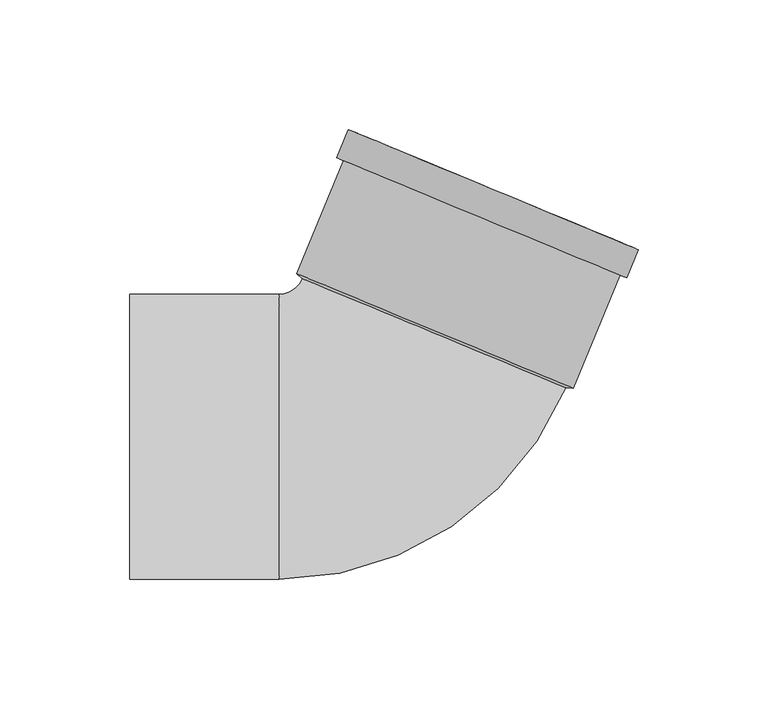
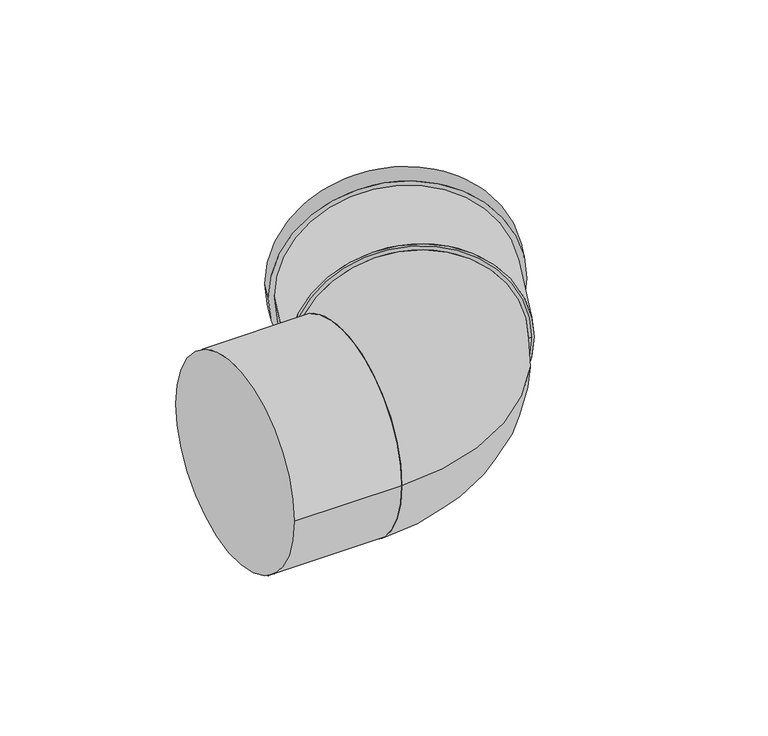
"""IFC4 building model written with IfcOpenShell, lengths in millimetres: pipe fitting geometry, Superdrain SKB Bend : Superdrain SKB Bend."""

import ifcopenshell
import ifcopenshell.guid

model = None  # the IFC model being written
_history = None  # IfcOwnerHistory: only IFC2X3 demands one
_inside = {}  # id of a spatial element -> (the spatial element, [elements in it])
_under = {}  # id of a project, library or spatial element -> (it, [spatial elements below it])
_declared = {}  # id of a project -> (the project, [libraries it declares])
_typed = {}  # id of a type object -> (the type object, [elements of that type])
_made_of = {}  # id of a material, layer set ... -> (it, [elements and type objects made of it])


def new_model(schema):
    """Start an empty IFC model of exactly this schema.

    Asked for "IFC4X3", IfcOpenShell would pick the latest addendum, in which some entities
    have other attributes; the version numbers below select the first issue.
    IFC2X3 requires an IfcOwnerHistory on every rooted entity: one is made here for all.
    """
    global model, _history
    if schema == "IFC4X3":
        model = ifcopenshell.file(schema_version=(4, 3, 0, 0))
    else:
        model = ifcopenshell.file(schema=schema)
    _inside.clear()
    _under.clear()
    _declared.clear()
    _typed.clear()
    _made_of.clear()
    _history = None
    if model.schema == "IFC2X3":
        org = make("IfcOrganization", Name="unknown")
        user = make(
            "IfcPersonAndOrganization",
            ThePerson=make("IfcPerson", FamilyName="unknown"),
            TheOrganization=org,
        )
        app = make(
            "IfcApplication",
            ApplicationDeveloper=org,
            Version="unknown",
            ApplicationFullName="unknown",
            ApplicationIdentifier="unknown",
        )
        _history = make(
            "IfcOwnerHistory",
            OwningUser=user,
            OwningApplication=app,
            ChangeAction="ADDED",
            CreationDate=0,
        )
    return model


def make(cls, **values):
    """One entity of the class cls with the attributes given. An attribute that is None is left unset."""
    return model.create_entity(
        cls, **{name: value for name, value in values.items() if value is not None}
    )


def rooted(cls, **values):
    """An entity with a GlobalId (a new one), such as an element, a storey or a relation."""
    return make(cls, GlobalId=ifcopenshell.guid.new(), OwnerHistory=_history, **values)


def si_unit(unit_type, name, prefix=None):
    """IfcSIUnit, for example si_unit("LENGTHUNIT", "METRE", prefix="MILLI")."""
    return make("IfcSIUnit", UnitType=unit_type, Prefix=prefix, Name=name)


def assignment(units):
    """IfcUnitAssignment: the units of a project."""
    return None if units is None else make("IfcUnitAssignment", Units=units)


def point(xyz):
    """IfcCartesianPoint."""
    return None if xyz is None else make("IfcCartesianPoint", Coordinates=xyz)


def direction(xyz):
    """IfcDirection."""
    return None if xyz is None else make("IfcDirection", DirectionRatios=xyz)


def frame(location, z_axis=None, x_axis=None):
    """IfcAxis2Placement3D, a coordinate frame: its origin and axes. An axis left out is left unset."""
    return make(
        "IfcAxis2Placement3D",
        Location=point(location),
        Axis=direction(z_axis),
        RefDirection=direction(x_axis),
    )


def frame_2d(location, x_axis=None):
    """IfcAxis2Placement2D, a coordinate frame in the plane: its origin and x axis."""
    return make(
        "IfcAxis2Placement2D", Location=point(location), RefDirection=direction(x_axis)
    )


def origin():
    """The frame at (0, 0, 0) with its axes left unset."""
    return frame((0.0, 0.0, 0.0))


def origin_2d():
    """The frame at (0, 0) in the plane with its x axis left unset."""
    return frame_2d((0.0, 0.0))


def place(relative_to, where):
    """IfcLocalPlacement: puts the frame where relative to a parent placement (None: the world)."""
    return make(
        "IfcLocalPlacement", PlacementRelTo=relative_to, RelativePlacement=where
    )


def context(
    kind, dimensions, precision=None, world=None, true_north=None, identifier=None
):
    """IfcGeometricRepresentationContext, for example the 3D "Model" context."""
    return make(
        "IfcGeometricRepresentationContext",
        ContextIdentifier=identifier,
        ContextType=kind,
        CoordinateSpaceDimension=dimensions,
        Precision=precision,
        WorldCoordinateSystem=world,
        TrueNorth=true_north,
    )


def project(units=None, contexts=None):
    """IfcProject with its units and contexts."""
    return rooted(
        "IfcProject",
        Name="project",
        RepresentationContexts=contexts,
        UnitsInContext=assignment(units),
    )


def spatial(cls, under=None, at=None, **own):
    """A site, building, storey or space (cls), placed at a placement, below another one or the project."""
    s = rooted(cls, ObjectPlacement=at, **own)
    if under is not None:
        _under.setdefault(under.id(), (under, []))[1].append(s)
    return s


def polyline(points):
    """IfcPolyline through the points."""
    return make("IfcPolyline", Points=[point(p) for p in points])


def circle_curve(where, radius):
    """IfcCircle in the frame where."""
    return make("IfcCircle", Position=where, Radius=radius)


def ellipse_curve(where, semi_axis1, semi_axis2):
    """IfcEllipse in the frame where."""
    return make(
        "IfcEllipse", Position=where, SemiAxis1=semi_axis1, SemiAxis2=semi_axis2
    )


def trimmed(basis, trim1, trim2, sense, master):
    """IfcTrimmedCurve: the piece of a basis curve between two trims."""
    return make(
        "IfcTrimmedCurve",
        BasisCurve=basis,
        Trim1=trim1,
        Trim2=trim2,
        SenseAgreement=sense,
        MasterRepresentation=master,
    )


def segment(curve, same_sense, transition):
    """IfcCompositeCurveSegment."""
    return make(
        "IfcCompositeCurveSegment",
        Transition=transition,
        SameSense=same_sense,
        ParentCurve=curve,
    )


def composite_curve(segments, self_intersect=None):
    """IfcCompositeCurve: segments joined end to end."""
    return make("IfcCompositeCurve", Segments=segments, SelfIntersect=self_intersect)


def outline(outer, holes=None, kind="AREA"):
    """IfcArbitraryClosedProfileDef: a profile drawn as a closed curve; with holes, ...WithVoids."""
    if holes is None:
        return make("IfcArbitraryClosedProfileDef", ProfileType=kind, OuterCurve=outer)
    return make(
        "IfcArbitraryProfileDefWithVoids",
        ProfileType=kind,
        OuterCurve=outer,
        InnerCurves=holes,
    )


def extrude(swept, where, along, depth):
    """IfcExtrudedAreaSolid: the profile swept, set in the frame where, extruded along a direction by depth."""
    return make(
        "IfcExtrudedAreaSolid",
        SweptArea=swept,
        Position=where,
        ExtrudedDirection=direction(along),
        Depth=depth,
    )


def shape(context_of_items, identifier, shape_type, items):
    """IfcShapeRepresentation: the items that make up one representation, for example the "Body"."""
    return make(
        "IfcShapeRepresentation",
        ContextOfItems=context_of_items,
        RepresentationIdentifier=identifier,
        RepresentationType=shape_type,
        Items=items,
    )


def source(mapping_origin, context_of_items, identifier, shape_type, items):
    """IfcRepresentationMap: a shape defined once, which mapped items show again and again."""
    return make(
        "IfcRepresentationMap",
        MappingOrigin=mapping_origin,
        MappedRepresentation=shape(context_of_items, identifier, shape_type, items),
    )


def transform(
    local_origin,
    x_axis=None,
    y_axis=None,
    z_axis=None,
    scale=None,
    scale2=None,
    scale3=None,
    uniform=True,
):
    """IfcCartesianTransformationOperator3D, or its non-uniform kind. x_axis, y_axis, z_axis: its Axis1, 2, 3."""
    if uniform:
        return make(
            "IfcCartesianTransformationOperator3D",
            Axis1=direction(x_axis),
            Axis2=direction(y_axis),
            LocalOrigin=point(local_origin),
            Scale=scale,
            Axis3=direction(z_axis),
        )
    return make(
        "IfcCartesianTransformationOperator3DnonUniform",
        Axis1=direction(x_axis),
        Axis2=direction(y_axis),
        LocalOrigin=point(local_origin),
        Scale=scale,
        Axis3=direction(z_axis),
        Scale2=scale2,
        Scale3=scale3,
    )


def mapped(mapping_source, mapping_target):
    """IfcMappedItem: shows the shape of a source again, moved by a transform."""
    return make(
        "IfcMappedItem", MappingSource=mapping_source, MappingTarget=mapping_target
    )


def made_of(thing, what):
    """Note that an element or type object is made of a material, layer set ...; save() writes the relation."""
    if what is not None:
        _made_of.setdefault(what.id(), (what, []))[1].append(thing)
    return thing


def element(
    cls,
    number,
    at=None,
    inside=None,
    cuts=None,
    type_object=None,
    material=None,
    context=None,
    identifier="Body",
    shape_type=None,
    held_by="IfcProductDefinitionShape",
    body=None,
    shapes=None,
    **own,
):
    """One element of the class cls, such as IfcWall. Its Tag is "e" and its number.

    at: its placement. inside: the storey or other place that contains it. cuts: it is an
    opening in that element (IfcRelVoidsElement). A single representation is given by context,
    identifier, shape_type and body (its items); several are given by shapes. held_by: the class
    of the entity that holds the representations. save() writes the other relations.
    """
    e = rooted(cls, Tag="e%d" % number, ObjectPlacement=at, **own)
    if body is not None:
        shapes = [shape(context, identifier, shape_type, body)]
    if shapes is not None:
        e.Representation = make(held_by, Representations=shapes)
    if inside is not None:
        _inside.setdefault(inside.id(), (inside, []))[1].append(e)
    if cuts is not None:
        rooted(
            "IfcRelVoidsElement", RelatingBuildingElement=cuts, RelatedOpeningElement=e
        )
    if type_object is not None:
        _typed.setdefault(type_object.id(), (type_object, []))[1].append(e)
    return made_of(e, material)


def aggregate(whole, parts):
    """IfcRelAggregates: a whole, such as a stair, and the parts it consists of."""
    return rooted("IfcRelAggregates", RelatingObject=whole, RelatedObjects=parts)


def save(model, path):
    """Write the relations noted so far, then the file.

    IfcRelAggregates (storeys below a building ...), IfcRelContainedInSpatialStructure (elements
    in a storey), IfcRelDefinesByType, IfcRelAssociatesMaterial and IfcRelDeclares: one each for
    every whole, place, type object, material and project.
    """
    for whole, parts in _under.values():
        aggregate(whole, parts)
    for where, things in _inside.values():
        rooted(
            "IfcRelContainedInSpatialStructure",
            RelatedElements=things,
            RelatingStructure=where,
        )
    for kind, things in _typed.values():
        rooted("IfcRelDefinesByType", RelatedObjects=things, RelatingType=kind)
    for what, things in _made_of.values():
        rooted("IfcRelAssociatesMaterial", RelatedObjects=things, RelatingMaterial=what)
    for by, libraries in _declared.values():
        rooted("IfcRelDeclares", RelatingContext=by, RelatedDefinitions=libraries)
    model.write(path)


def plane_surface(at):
    """IfcPlane: the flat surface through the origin of the frame at, square to its z axis."""
    return make("IfcPlane", Position=at)


def revolved_surface(curve, axis_point, axis_direction):
    """IfcSurfaceOfRevolution: the curve turned about the line through axis_point along axis_direction."""
    return make(
        "IfcSurfaceOfRevolution",
        SweptCurve=make("IfcArbitraryOpenProfileDef", ProfileType="CURVE", Curve=curve),
        AxisPosition=make("IfcAxis1Placement", Location=point(axis_point), Axis=direction(axis_direction)),
    )


def advanced_brep(points, edges, surfaces, faces):
    """IfcAdvancedBrep: a solid bounded by faces that lie on surfaces and meet in shared edges.

    An edge is (start, end): straight between two places in points (the first is 0);
    or (start, end, curve); or (start, end, curve, False) where it runs against its curve.
    A face is (place in surfaces, loops), or (place, loops, False) where it looks against
    its surface's normal. A loop lists edges by number (the first is 1), with a minus sign
    where the edge is run from its end to its start. The first loop is the outer one.
    """
    corners = [point(p) for p in points]
    vertices = [make("IfcVertexPoint", VertexGeometry=c) for c in corners]
    made = []
    for start, end, *more in edges:
        made.append(
            make(
                "IfcEdgeCurve",
                EdgeStart=vertices[start],
                EdgeEnd=vertices[end],
                EdgeGeometry=more[0] if more else make("IfcPolyline", Points=[corners[start], corners[end]]),
                SameSense=more[1] if len(more) > 1 else True,
            )
        )
    hull = []
    for where, loops, *sense in faces:
        bounds = []
        for j, loop in enumerate(loops):
            ring = [make("IfcOrientedEdge", EdgeElement=made[abs(k) - 1], Orientation=k > 0) for k in loop]
            bounds.append(
                make(
                    "IfcFaceOuterBound" if j == 0 else "IfcFaceBound",
                    Bound=make("IfcEdgeLoop", EdgeList=ring),
                    Orientation=True,
                )
            )
        hull.append(make("IfcAdvancedFace", Bounds=bounds, FaceSurface=surfaces[where], SameSense=sense[0] if sense else True))
    return make("IfcAdvancedBrep", Outer=make("IfcClosedShell", CfsFaces=hull))


def pipe_fitting_cee9e1e2(model_context):
    return source(origin(), model_context, "Body", "SolidModel", [
        advanced_brep(
        [(67.3452986, 18.864007, 0.0), (-34.28145, 60.9591846, 0.0), (-43.2, -55.0, 0.0), (-43.2, 55.0, 0.0)],
        [
            (0, 1, circle_curve(frame((16.5319243, 39.9115958, 0.0), z_axis=(0.38268343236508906, 0.9238795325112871, 0.0), x_axis=(-0.9238795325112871, 0.38268343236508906, 0.0)), 55.0)),
            (1, 0, circle_curve(frame((16.5319243, 39.9115958, 0.0), z_axis=(0.3826834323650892, 0.923879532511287, 0.0), x_axis=(-0.923879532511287, 0.3826834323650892, 0.0)), 55.0)),
            (2, 3, circle_curve(frame((-43.2, 0.0, 0.0), z_axis=(-1.0, 0.0, 0.0), x_axis=(0.0, 1.0, 0.0)), 55.0)),
            (3, 2, circle_curve(frame((-43.2, 0.0, 0.0), z_axis=(-1.0, 0.0, 0.0), x_axis=(0.0, 1.0, 0.0)), 55.0)),
            (3, 1, circle_curve(frame((-43.2, 64.6533689, 0.0), z_axis=(0.0, 0.0, 1.0), x_axis=(1.0, 0.0, 0.0)), 9.6533689)),
            (0, 2, circle_curve(frame((-43.2, 64.6533689, 0.0), z_axis=(0.0, 0.0, -1.0), x_axis=(1.0, 0.0, 0.0)), 119.6533689)),
        ],
        [
            plane_surface(frame((16.5319243, 39.9115958, 0.0), z_axis=(0.3826834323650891, 0.9238795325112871, 0.0), x_axis=(0.0, 0.0, -1.0))),
            plane_surface(frame((-43.2, 0.0, 0.0), z_axis=(-1.0, 0.0, 0.0), x_axis=(0.0, 0.0, -1.0))),
            revolved_surface(trimmed(ellipse_curve(frame((21.4533689, 64.6533689, 0.0), z_axis=(0.0, -1.0, 0.0), x_axis=(-1.0, 0.0, 0.0)), 55.0, 55.0), [point((-33.5466311, 64.6533689, 0.0))], [point((76.4533689, 64.6533689, 0.0))], True, "CARTESIAN"), (-43.2, 64.6533689, 0.0), (0.0, 0.0, 1.0)),
            revolved_surface(trimmed(ellipse_curve(frame((21.4533689, 64.6533689, 0.0), z_axis=(0.0, -1.0, 0.0), x_axis=(-1.0, 0.0, 0.0)), 55.0, 55.0), [point((76.4533689, 64.6533689, 0.0))], [point((-33.5466311, 64.6533689, 0.0))], True, "CARTESIAN"), (-43.2, 64.6533689, 0.0), (0.0, 0.0, 1.0)),
        ],
        [
            (0, [[1, 2]]),
            (1, [[3, 4]]),
            (2, [[-4, 5, -1, 6]]),
            (3, [[-3, -6, -2, -5]]),
        ],
    ),
        extrude(outline(composite_curve([segment(trimmed(circle_curve(origin_2d(), 57.75), [point((0.0, 57.75))], [point((0.0, -57.75))], False, "CARTESIAN"), True, "CONTINUOUS"), segment(trimmed(circle_curve(origin_2d(), 57.75), [point((0.0, -57.75))], [point((0.0, 57.75))], False, "CARTESIAN"), True, "CONTINUOUS")], self_intersect=False), holes=[composite_curve([segment(trimmed(circle_curve(origin_2d(), 55.0), [point((0.0, 55.0))], [point((0.0, -55.0))], True, "CARTESIAN"), True, "CONTINUOUS"), segment(trimmed(circle_curve(origin_2d(), 55.0), [point((0.0, -55.0))], [point((0.0, 55.0))], True, "CARTESIAN"), True, "CONTINUOUS")], self_intersect=False)]), frame((16.9146077, 40.8354753, 0.0), z_axis=(0.3826834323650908, 0.9238795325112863, 0.0), x_axis=(0.0, 0.0, 1.0)), (0.0, 0.0, 1.0), 59.0),
        extrude(outline(composite_curve([segment(trimmed(circle_curve(origin_2d(), 60.6375), [point((0.0, -60.6374999))], [point((0.0, 60.6375001))], False, "CARTESIAN"), True, "CONTINUOUS"), segment(trimmed(circle_curve(origin_2d(), 60.6375), [point((0.0, 60.6375001))], [point((0.0, -60.6374999))], False, "CARTESIAN"), True, "CONTINUOUS")], self_intersect=False), holes=[composite_curve([segment(trimmed(circle_curve(origin_2d(), 55.0), [point((0.0, -55.0))], [point((0.0, 55.0))], True, "CARTESIAN"), True, "CONTINUOUS"), segment(trimmed(circle_curve(origin_2d(), 55.0), [point((0.0, 55.0))], [point((0.0, -55.0))], True, "CARTESIAN"), True, "CONTINUOUS")], self_intersect=False)]), frame((34.9772657, 84.4425893, 0.0), z_axis=(0.382683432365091, 0.9238795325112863, 0.0), x_axis=(0.0, 0.0, 1.0)), (0.0, 0.0, 1.0), 11.8),
        advanced_brep(
        [(70.2686507, 18.7355071, 0.0), (-36.4394353, 62.9354436, 0.0), (67.3452986, 18.864007, 0.0), (-34.28145, 60.9591846, 0.0)],
        [
            (0, 1, circle_curve(frame((16.9146077, 40.8354753, 0.0), z_axis=(0.3826834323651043, 0.923879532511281, 0.0), x_axis=(0.9238795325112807, -0.38268343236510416, 0.0)), 57.75)),
            (1, 0, circle_curve(frame((16.9146077, 40.8354753, 0.0), z_axis=(0.3826834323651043, 0.923879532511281, 0.0), x_axis=(-0.9238795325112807, 0.38268343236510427, 0.0)), 57.75)),
            (2, 3, circle_curve(frame((16.5319243, 39.9115958, 0.0), z_axis=(-0.3826834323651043, -0.923879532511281, 0.0), x_axis=(-0.9238795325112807, 0.38268343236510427, 0.0)), 55.0)),
            (3, 2, circle_curve(frame((16.5319243, 39.9115958, 0.0), z_axis=(-0.3826834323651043, -0.923879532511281, 0.0), x_axis=(0.9238795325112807, -0.38268343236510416, 0.0)), 55.0)),
            (3, 1),
            (0, 2),
        ],
        [
            plane_surface(frame((16.9146077, 40.8354753, 0.0), z_axis=(0.3826834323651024, 0.9238795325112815, 0.0), x_axis=(0.0, 0.0, -1.0))),
            plane_surface(frame((16.5319243, 39.9115958, 0.0), z_axis=(-0.3826834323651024, -0.9238795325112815, 0.0), x_axis=(0.0, 0.0, -1.0))),
            revolved_surface(polyline([(-34.281449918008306, 60.959184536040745, 0.0), (-36.4394353, 62.9354436, 0.0)]), (8.8782556, 21.4340052, 0.0), (0.3826834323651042, 0.9238795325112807, 0.0)),
            revolved_surface(polyline([(67.34529857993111, 18.864007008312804, 0.0), (70.26865087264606, 18.73550709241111, 0.0)]), (8.8782556, 21.4340052, 0.0), (0.3826834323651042, 0.9238795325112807, 0.0)),
        ],
        [
            (0, [[1, 2]]),
            (1, [[3, 4]]),
            (2, [[-4, 5, -1, 6]]),
            (3, [[-3, -6, -2, -5]]),
        ],
    ),
        extrude(outline(composite_curve([segment(trimmed(circle_curve(origin_2d(), 55.0), [point((-55.0, 0.0))], [point((55.0, 0.0))], False, "CARTESIAN"), True, "CONTINUOUS"), segment(trimmed(circle_curve(origin_2d(), 55.0), [point((55.0, 0.0))], [point((-55.0, 0.0))], False, "CARTESIAN"), True, "CONTINUOUS")], self_intersect=False)), frame((-101.0, 0.0, 0.0), z_axis=(1.0, 0.0, 0.0), x_axis=(0.0, 1.0, 0.0)), (0.0, 0.0, 1.0), 57.8),
    ])


if __name__ == "__main__":
    model = new_model("IFC4")
    model_context = context("Model", 3, world=origin())
    ifc_project = project(units=[si_unit("LENGTHUNIT", "METRE", prefix="MILLI")], contexts=[model_context])
    site = spatial("IfcSite", under=ifc_project)
    building = spatial("IfcBuilding", under=site)
    placement = place(None, origin())
    pipe_fitting_shape = pipe_fitting_cee9e1e2(model_context)
    element("IfcPipeFitting", 1, ObjectType="Superdrain SKB Bend : Superdrain SKB Bend", at=placement, inside=building, context=model_context, shape_type="MappedRepresentation", body=[
        mapped(pipe_fitting_shape, transform((0.0, 0.0, 0.0), x_axis=(1.0, 0.0, 0.0), y_axis=(0.0, 1.0, 0.0), z_axis=(0.0, 0.0, 1.0))),
    ])
    save(model, "model.ifc")
